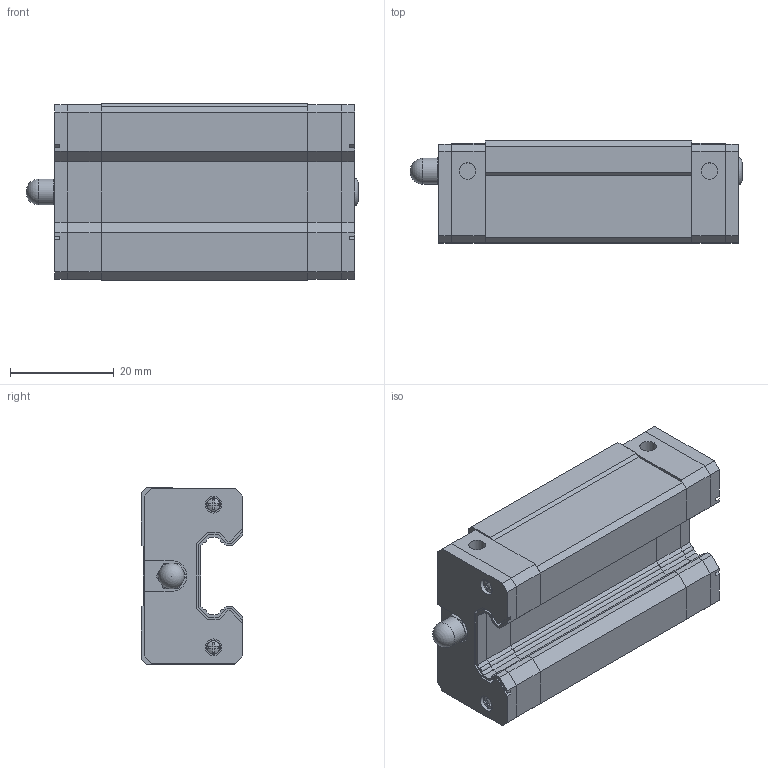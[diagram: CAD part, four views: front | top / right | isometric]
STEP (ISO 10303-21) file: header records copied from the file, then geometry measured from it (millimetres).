
FILE_DESCRIPTION(('FreeCAD Model'),'2;1');
FILE_NAME('Open CASCADE Shape Model','2024-12-05T09:56:46',('Author'),( ''),'Open CASCADE STEP processor 7.6','FreeCAD','Unknown');
FILE_SCHEMA(('AUTOMOTIVE_DESIGN { 1 0 10303 214 1 1 1 1 }'));
Length unit declared in the file: millimetre
Products named in the file (12): EH15CA; _GEH15CA_slider; _GEC15_C; _GEC15_P; _GH15_SCREW; _GH15_SCREW001; _GH15_BOLT; _GEC15_C001; _GEC15_P001; _GH15_SCREW002; _GH15_SCREW003; _GH15-_G
Assembly tree (11 placements, depth 2):
  EH15CA
    _GEH15CA_slider
    _GEC15_C
    _GEC15_P
    _GH15_SCREW
    _GH15_SCREW001
    _GH15_BOLT
    _GEC15_C001
    _GEC15_P001
    _GH15_SCREW002
    _GH15_SCREW003
    _GH15-_G
Bounding box: 63.97 x 19.6 x 34 mm (x, y, z)
Volume: 30639.1 mm3; surface area: 13540.3 mm2
Topology: 11 solids, 11 shells, 358 faces, 939 edges, 619 vertices
Faces by surface type: plane 286, cylinder 50, cone 12, sphere 5, torus 5
Full cylindrical faces by diameter (mm): 2.2 x4, 2.64 x4, 3.15 x2, 3.2 x4, 3.23 x4, 3.242 x4, 4 x2, 4.3 x2, 5 x1, 5.5 x1
Entity records: 11245 total; most frequent: CARTESIAN_POINT 2045, ORIENTED_EDGE 1876, DIRECTION 1792, EDGE_CURVE 938, LINE 712, VECTOR 712, VERTEX_POINT 619, AXIS2_PLACEMENT_3D 540
